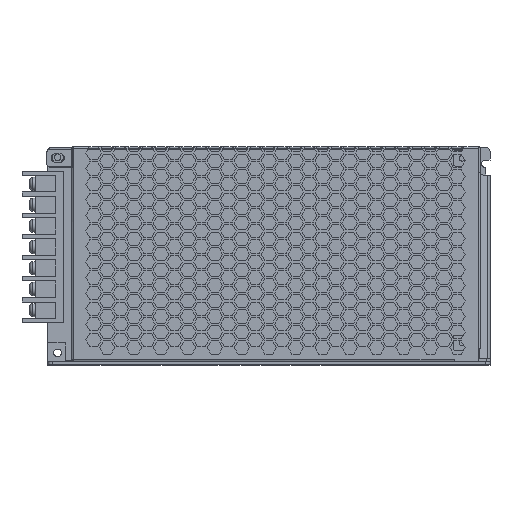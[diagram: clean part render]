
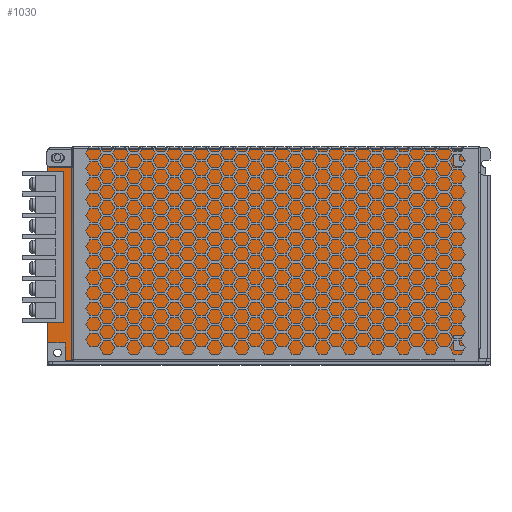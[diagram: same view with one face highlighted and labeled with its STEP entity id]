
A CAD part, top view. The second image highlights one B-rep face of the part: STEP entity #1030.
In plain terms, the highlighted planar face has unit normal (0, 0, 1).
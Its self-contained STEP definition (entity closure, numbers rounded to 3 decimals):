
#10=CARTESIAN_POINT('',(0.,0.,0.));
#20=DIRECTION('',(0.,0.,1.));
#30=DIRECTION('',(1.,0.,0.));
#40=AXIS2_PLACEMENT_3D('',#10,#20,#30);
#50=PLANE('',#40);
#60=CARTESIAN_POINT('',(-325.167,296.125,0.));
#70=DIRECTION('',(0.,0.,1.));
#80=DIRECTION('',(1.,0.,0.));
#90=AXIS2_PLACEMENT_3D('',#60,#70,#80);
#100=CIRCLE('',#90,3.);
#110=CARTESIAN_POINT('',(-322.167,296.125,0.));
#120=VERTEX_POINT('',#110);
#130=CARTESIAN_POINT('',(-328.167,296.125,0.));
#140=VERTEX_POINT('',#130);
#150=EDGE_CURVE('',#120,#140,#100,.T.);
#160=ORIENTED_EDGE('',*,*,#150,.F.);
#170=EDGE_CURVE('',#140,#120,#100,.T.);
#180=ORIENTED_EDGE('',*,*,#170,.F.);
#190=EDGE_LOOP('',(#180,#160));
#200=FACE_BOUND('',#190,.T.);
#210=CARTESIAN_POINT('',(-149.167,0.,0.));
#220=DIRECTION('',(0.,1.,0.));
#230=VECTOR('',#220,1.);
#240=LINE('',#210,#230);
#250=CARTESIAN_POINT('',(-149.167,204.625,0.));
#260=VERTEX_POINT('',#250);
#270=CARTESIAN_POINT('',(-149.167,205.625,0.));
#280=VERTEX_POINT('',#270);
#290=EDGE_CURVE('',#260,#280,#240,.T.);
#300=ORIENTED_EDGE('',*,*,#290,.F.);
#310=CARTESIAN_POINT('',(0.,205.625,0.));
#320=DIRECTION('',(-1.,0.,0.));
#330=VECTOR('',#320,1.);
#340=LINE('',#310,#330);
#350=CARTESIAN_POINT('',(-227.604,205.625,0.));
#360=VERTEX_POINT('',#350);
#370=EDGE_CURVE('',#280,#360,#340,.T.);
#380=ORIENTED_EDGE('',*,*,#370,.F.);
#390=CARTESIAN_POINT('',(-227.604,0.,0.));
#400=DIRECTION('',(0.,-1.,0.));
#410=VECTOR('',#400,1.);
#420=LINE('',#390,#410);
#430=CARTESIAN_POINT('',(-227.604,204.625,0.));
#440=VERTEX_POINT('',#430);
#450=EDGE_CURVE('',#360,#440,#420,.T.);
#460=ORIENTED_EDGE('',*,*,#450,.F.);
#470=CARTESIAN_POINT('',(0.,204.625,0.));
#480=DIRECTION('',(1.,0.,0.));
#490=VECTOR('',#480,1.);
#500=LINE('',#470,#490);
#510=CARTESIAN_POINT('',(-321.667,204.625,0.));
#520=VERTEX_POINT('',#510);
#530=EDGE_CURVE('',#520,#440,#500,.T.);
#540=ORIENTED_EDGE('',*,*,#530,.T.);
#550=CARTESIAN_POINT('',(-321.667,0.,0.));
#560=DIRECTION('',(0.,-1.,0.));
#570=VECTOR('',#560,1.);
#580=LINE('',#550,#570);
#590=CARTESIAN_POINT('',(-321.667,212.625,0.));
#600=VERTEX_POINT('',#590);
#610=EDGE_CURVE('',#600,#520,#580,.T.);
#620=ORIENTED_EDGE('',*,*,#610,.T.);
#630=CARTESIAN_POINT('',(0.,212.625,0.));
#640=DIRECTION('',(1.,0.,0.));
#650=VECTOR('',#640,1.);
#660=LINE('',#630,#650);
#670=CARTESIAN_POINT('',(-329.667,212.625,0.));
#680=VERTEX_POINT('',#670);
#690=EDGE_CURVE('',#680,#600,#660,.T.);
#700=ORIENTED_EDGE('',*,*,#690,.T.);
#710=CARTESIAN_POINT('',(-329.667,0.,0.));
#720=DIRECTION('',(0.,-1.,0.));
#730=VECTOR('',#720,1.);
#740=LINE('',#710,#730);
#750=CARTESIAN_POINT('',(-329.667,299.625,0.));
#760=VERTEX_POINT('',#750);
#770=EDGE_CURVE('',#760,#680,#740,.T.);
#780=ORIENTED_EDGE('',*,*,#770,.T.);
#790=CARTESIAN_POINT('',(0.,299.625,0.));
#800=DIRECTION('',(-1.,0.,0.));
#810=VECTOR('',#800,1.);
#820=LINE('',#790,#810);
#830=CARTESIAN_POINT('',(-135.667,299.625,0.));
#840=VERTEX_POINT('',#830);
#850=EDGE_CURVE('',#840,#760,#820,.T.);
#860=ORIENTED_EDGE('',*,*,#850,.T.);
#870=CARTESIAN_POINT('',(-135.667,0.,0.));
#880=DIRECTION('',(0.,1.,0.));
#890=VECTOR('',#880,1.);
#900=LINE('',#870,#890);
#910=CARTESIAN_POINT('',(-135.667,204.625,0.));
#920=VERTEX_POINT('',#910);
#930=EDGE_CURVE('',#920,#840,#900,.T.);
#940=ORIENTED_EDGE('',*,*,#930,.T.);
#950=CARTESIAN_POINT('',(0.,204.625,0.));
#960=DIRECTION('',(1.,0.,0.));
#970=VECTOR('',#960,1.);
#980=LINE('',#950,#970);
#990=EDGE_CURVE('',#260,#920,#980,.T.);
#1000=ORIENTED_EDGE('',*,*,#990,.T.);
#1010=EDGE_LOOP('',(#1000,#940,#860,#780,#700,#620,#540,#460,#380,#300))
;
#1020=FACE_OUTER_BOUND('',#1010,.T.);
#1030=ADVANCED_FACE('',(#200,#1020),#50,.T.);
